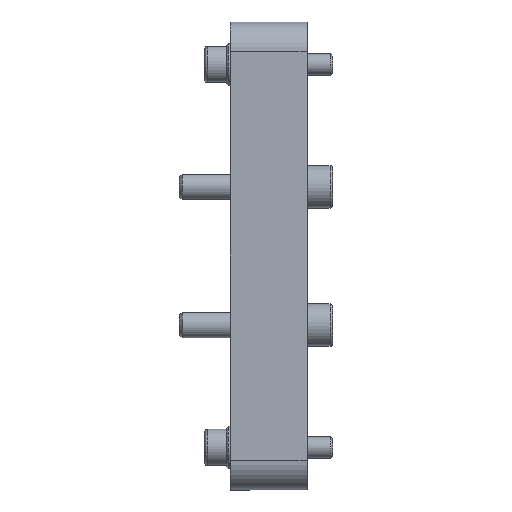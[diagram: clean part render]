
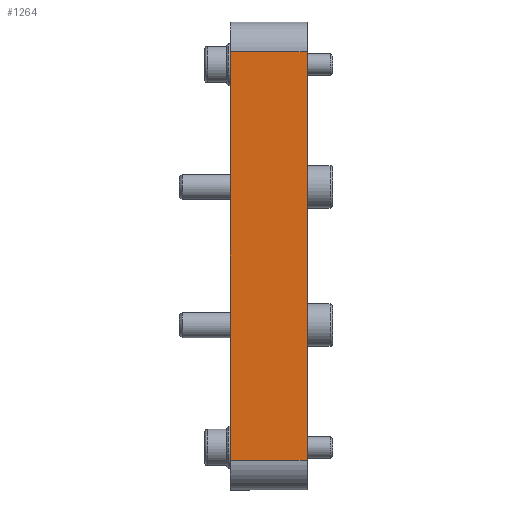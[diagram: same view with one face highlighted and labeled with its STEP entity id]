
A CAD part, left-side view. The second image highlights one B-rep face of the part: STEP entity #1264.
In plain terms, the highlighted planar face has unit normal (-1, 0, 0) as drawn and (0, -1, 0) by its records, which use the part's own axes.
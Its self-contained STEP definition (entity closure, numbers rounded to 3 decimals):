
#151=PLANE('',#1437);
#194=FACE_OUTER_BOUND('',#279,.T.);
#279=EDGE_LOOP('',(#974,#975,#976,#977));
#397=LINE('',#2016,#485);
#398=LINE('',#2019,#486);
#410=LINE('',#2075,#498);
#411=LINE('',#2076,#499);
#485=VECTOR('',#1615,10.);
#486=VECTOR('',#1618,10.);
#498=VECTOR('',#1664,10.);
#499=VECTOR('',#1665,10.);
#635=VERTEX_POINT('',#2009);
#638=VERTEX_POINT('',#2014);
#639=VERTEX_POINT('',#2018);
#666=VERTEX_POINT('',#2074);
#765=EDGE_CURVE('',#638,#635,#397,.T.);
#766=EDGE_CURVE('',#635,#639,#398,.T.);
#794=EDGE_CURVE('',#666,#638,#410,.T.);
#795=EDGE_CURVE('',#639,#666,#411,.T.);
#974=ORIENTED_EDGE('',*,*,#765,.F.);
#975=ORIENTED_EDGE('',*,*,#794,.F.);
#976=ORIENTED_EDGE('',*,*,#795,.F.);
#977=ORIENTED_EDGE('',*,*,#766,.F.);
#1264=ADVANCED_FACE('',(#194),#151,.T.);
#1437=AXIS2_PLACEMENT_3D('',#2073,#1662,#1663);
#1615=DIRECTION('',(0.,0.,1.));
#1618=DIRECTION('',(1.,0.,0.));
#1662=DIRECTION('center_axis',(0.,-1.,0.));
#1663=DIRECTION('ref_axis',(1.,0.,0.));
#1664=DIRECTION('',(-1.,0.,0.));
#1665=DIRECTION('',(0.,0.,-1.));
#2009=CARTESIAN_POINT('',(-48.,-78.5,18.));
#2014=CARTESIAN_POINT('',(-48.,-78.5,0.));
#2016=CARTESIAN_POINT('',(-48.,-78.5,0.));
#2018=CARTESIAN_POINT('',(48.,-78.5,18.));
#2019=CARTESIAN_POINT('',(55.,-78.5,18.));
#2073=CARTESIAN_POINT('Origin',(-55.,-78.5,0.));
#2074=CARTESIAN_POINT('',(48.,-78.5,0.));
#2075=CARTESIAN_POINT('',(55.,-78.5,0.));
#2076=CARTESIAN_POINT('',(48.,-78.5,0.));
